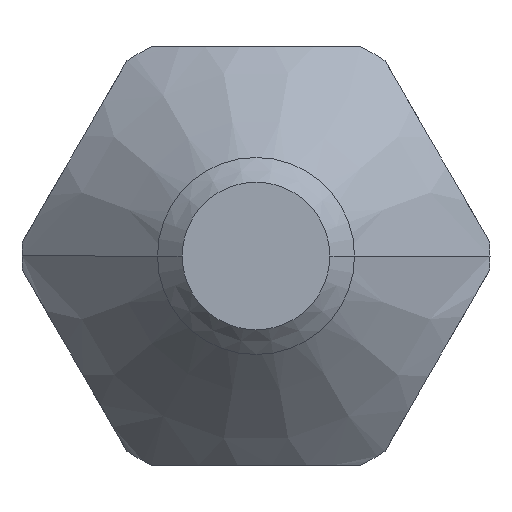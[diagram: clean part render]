
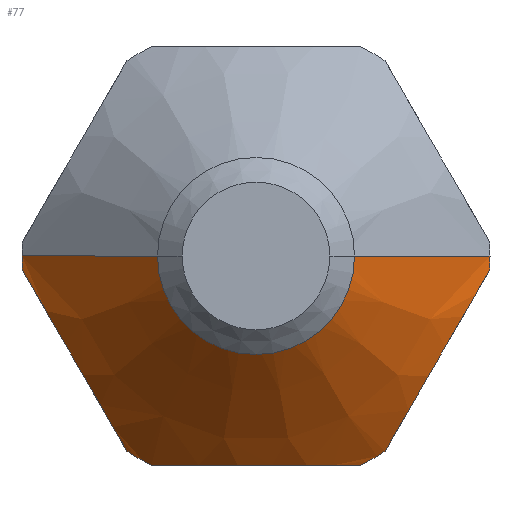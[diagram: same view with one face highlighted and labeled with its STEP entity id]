
A CAD part, front view. The second image highlights one B-rep face of the part: STEP entity #77.
In plain terms, the highlighted conical face has half-angle 45.001 degrees and reference radius 6.521 mm.
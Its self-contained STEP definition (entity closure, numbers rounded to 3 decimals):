
#77 = ADVANCED_FACE( '', ( #116 ), #117, .T. );
#116 = FACE_OUTER_BOUND( '', #189, .T. );
#117 = CONICAL_SURFACE( '', #190, 6.521, 0.785 );
#189 = EDGE_LOOP( '', ( #274, #275, #276, #277, #278, #279, #280, #281, #282, #283, #284 ) );
#190 = AXIS2_PLACEMENT_3D( '', #285, #286, #287 );
#274 = ORIENTED_EDGE( '', *, *, #546, .F. );
#275 = ORIENTED_EDGE( '', *, *, #540, .T. );
#276 = ORIENTED_EDGE( '', *, *, #545, .T. );
#277 = ORIENTED_EDGE( '', *, *, #547, .F. );
#278 = ORIENTED_EDGE( '', *, *, #548, .F. );
#279 = ORIENTED_EDGE( '', *, *, #549, .T. );
#280 = ORIENTED_EDGE( '', *, *, #550, .F. );
#281 = ORIENTED_EDGE( '', *, *, #551, .T. );
#282 = ORIENTED_EDGE( '', *, *, #552, .F. );
#283 = ORIENTED_EDGE( '', *, *, #553, .T. );
#284 = ORIENTED_EDGE( '', *, *, #554, .F. );
#285 = CARTESIAN_POINT( '', ( 0., 11.685, 0. ) );
#286 = DIRECTION( '', ( 0., 1., 0. ) );
#287 = DIRECTION( '', ( 1., 0., 0. ) );
#540 = EDGE_CURVE( '', #629, #627, #630, .T. );
#545 = EDGE_CURVE( '', #627, #635, #637, .T. );
#546 = EDGE_CURVE( '', #629, #638, #639, .T. );
#547 = EDGE_CURVE( '', #640, #635, #641, .T. );
#548 = EDGE_CURVE( '', #642, #640, #643, .T. );
#549 = EDGE_CURVE( '', #642, #644, #645, .T. );
#550 = EDGE_CURVE( '', #646, #644, #647, .T. );
#551 = EDGE_CURVE( '', #646, #648, #649, .T. );
#552 = EDGE_CURVE( '', #650, #648, #651, .T. );
#553 = EDGE_CURVE( '', #650, #652, #653, .T. );
#554 = EDGE_CURVE( '', #638, #652, #654, .T. );
#627 = VERTEX_POINT( '', #766 );
#629 = VERTEX_POINT( '', #768 );
#630 = CIRCLE( '', #769, 3.543 );
#635 = VERTEX_POINT( '', #774 );
#637 = CIRCLE( '', #776, 3.543 );
#638 = VERTEX_POINT( '', #777 );
#639 = LINE( '', #778, #779 );
#640 = VERTEX_POINT( '', #780 );
#641 = LINE( '', #781, #782 );
#642 = VERTEX_POINT( '', #783 );
#643 = CIRCLE( '', #784, 9.5 );
#644 = VERTEX_POINT( '', #785 );
#645 = ( B_SPLINE_CURVE( 2, ( #787, #788, #789 ), .UNSPECIFIED., .F., .F. )B_SPLINE_CURVE_WITH_KNOTS( ( 3, 3 ), ( 0., 8.718 ), .UNSPECIFIED. )RATIONAL_B_SPLINE_CURVE( ( 1., 1.118, 1. ) )BOUNDED_CURVE(  )REPRESENTATION_ITEM( '' )GEOMETRIC_REPRESENTATION_ITEM(  )CURVE(  ) );
#646 = VERTEX_POINT( '', #796 );
#647 = CIRCLE( '', #797, 9.5 );
#648 = VERTEX_POINT( '', #798 );
#649 = ( B_SPLINE_CURVE( 2, ( #800, #801, #802 ), .UNSPECIFIED., .F., .F. )B_SPLINE_CURVE_WITH_KNOTS( ( 3, 3 ), ( 0., 8.718 ), .UNSPECIFIED. )RATIONAL_B_SPLINE_CURVE( ( 1., 1.118, 1. ) )BOUNDED_CURVE(  )REPRESENTATION_ITEM( '' )GEOMETRIC_REPRESENTATION_ITEM(  )CURVE(  ) );
#650 = VERTEX_POINT( '', #809 );
#651 = CIRCLE( '', #810, 9.5 );
#652 = VERTEX_POINT( '', #811 );
#653 = ( B_SPLINE_CURVE( 2, ( #813, #814, #815 ), .UNSPECIFIED., .F., .F. )B_SPLINE_CURVE_WITH_KNOTS( ( 3, 3 ), ( 0., 8.718 ), .UNSPECIFIED. )RATIONAL_B_SPLINE_CURVE( ( 1., 1.118, 1. ) )BOUNDED_CURVE(  )REPRESENTATION_ITEM( '' )GEOMETRIC_REPRESENTATION_ITEM(  )CURVE(  ) );
#654 = CIRCLE( '', #822, 9.5 );
#766 = CARTESIAN_POINT( '', ( 0., 8.707, -3.543 ) );
#768 = CARTESIAN_POINT( '', ( 3.543, 8.707, 0. ) );
#769 = AXIS2_PLACEMENT_3D( '', #1046, #1047, #1048 );
#774 = CARTESIAN_POINT( '', ( -3.543, 8.707, 0. ) );
#776 = AXIS2_PLACEMENT_3D( '', #1061, #1062, #1063 );
#777 = CARTESIAN_POINT( '', ( 9.5, 14.664, 0. ) );
#778 = CARTESIAN_POINT( '', ( 6.521, 11.685, 0. ) );
#779 = VECTOR( '', #1064, 1. );
#780 = CARTESIAN_POINT( '', ( -9.5, 14.664, 0. ) );
#781 = CARTESIAN_POINT( '', ( -6.521, 11.685, 0. ) );
#782 = VECTOR( '', #1065, 1. );
#783 = CARTESIAN_POINT( '', ( -9.483, 14.664, -0.576 ) );
#784 = AXIS2_PLACEMENT_3D( '', #1066, #1067, #1068 );
#785 = CARTESIAN_POINT( '', ( -5.24, 14.664, -7.924 ) );
#787 = CARTESIAN_POINT( '', ( -9.483, 14.664, -0.576 ) );
#788 = CARTESIAN_POINT( '', ( -7.361, 12.769, -4.25 ) );
#789 = CARTESIAN_POINT( '', ( -5.24, 14.664, -7.924 ) );
#796 = CARTESIAN_POINT( '', ( -4.243, 14.664, -8.5 ) );
#797 = AXIS2_PLACEMENT_3D( '', #1069, #1070, #1071 );
#798 = CARTESIAN_POINT( '', ( 4.243, 14.664, -8.5 ) );
#800 = CARTESIAN_POINT( '', ( -4.243, 14.664, -8.5 ) );
#801 = CARTESIAN_POINT( '', ( 0., 12.769, -8.5 ) );
#802 = CARTESIAN_POINT( '', ( 4.243, 14.664, -8.5 ) );
#809 = CARTESIAN_POINT( '', ( 5.24, 14.664, -7.924 ) );
#810 = AXIS2_PLACEMENT_3D( '', #1072, #1073, #1074 );
#811 = CARTESIAN_POINT( '', ( 9.483, 14.664, -0.576 ) );
#813 = CARTESIAN_POINT( '', ( 5.24, 14.664, -7.924 ) );
#814 = CARTESIAN_POINT( '', ( 7.361, 12.769, -4.25 ) );
#815 = CARTESIAN_POINT( '', ( 9.483, 14.664, -0.576 ) );
#822 = AXIS2_PLACEMENT_3D( '', #1075, #1076, #1077 );
#1046 = CARTESIAN_POINT( '', ( 0., 8.707, 0. ) );
#1047 = DIRECTION( '', ( 0., 1., 0. ) );
#1048 = DIRECTION( '', ( 1., 0., 0. ) );
#1061 = CARTESIAN_POINT( '', ( 0., 8.707, 0. ) );
#1062 = DIRECTION( '', ( 0., 1., 0. ) );
#1063 = DIRECTION( '', ( 1., 0., 0. ) );
#1064 = DIRECTION( '', ( 0.707, 0.707, 0. ) );
#1065 = DIRECTION( '', ( 0.707, -0.707, 0. ) );
#1066 = CARTESIAN_POINT( '', ( 0., 14.664, 0. ) );
#1067 = DIRECTION( '', ( 0., 1., 0. ) );
#1068 = DIRECTION( '', ( 1., 0., 0. ) );
#1069 = CARTESIAN_POINT( '', ( 0., 14.664, 0. ) );
#1070 = DIRECTION( '', ( 0., 1., 0. ) );
#1071 = DIRECTION( '', ( 1., 0., 0. ) );
#1072 = CARTESIAN_POINT( '', ( 0., 14.664, 0. ) );
#1073 = DIRECTION( '', ( 0., 1., 0. ) );
#1074 = DIRECTION( '', ( 1., 0., 0. ) );
#1075 = CARTESIAN_POINT( '', ( 0., 14.664, 0. ) );
#1076 = DIRECTION( '', ( 0., 1., 0. ) );
#1077 = DIRECTION( '', ( 1., 0., 0. ) );
